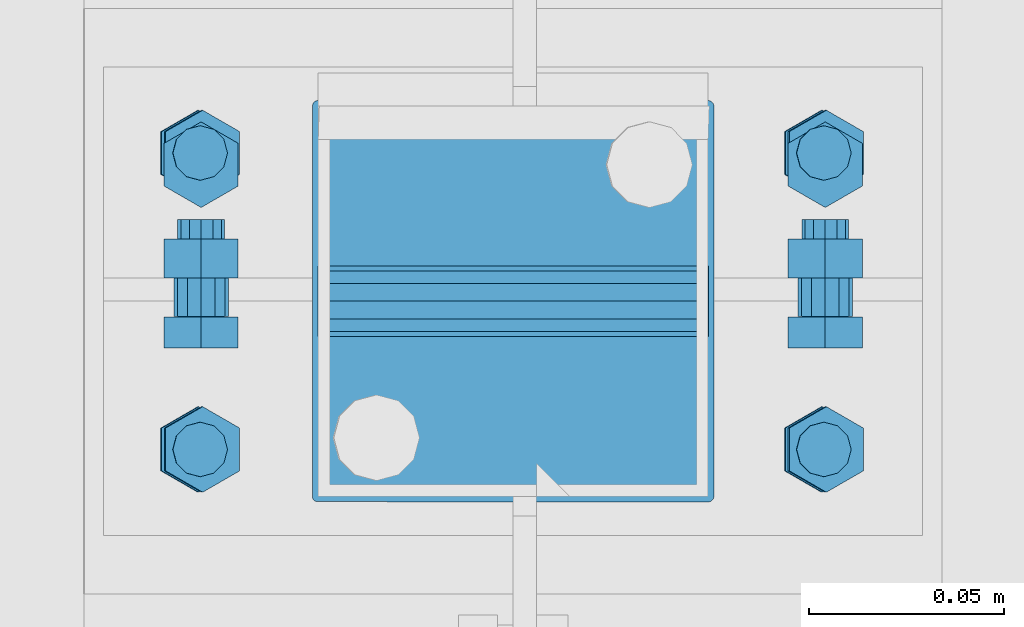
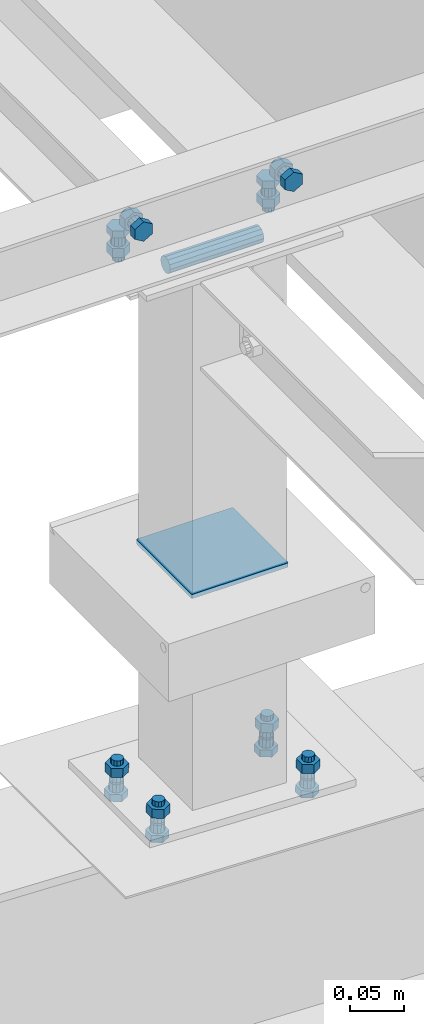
# One storey, part 192 of 3134: 6 mechanical fasteners, 3 elements without a shape of their own.
"""IFC2X3 building model written with IfcOpenShell, lengths in millimetres."""

from ifc_helpers import new_model, si_unit, frame, origin_with_axes, place, context, subcontext, project, spatial, faceted_brep, source, transform, mapped, material, type_object, element, aggregate, save


model = new_model("IFC2X3")

# Units and contexts
model_context = context("Model", 3, precision=1e-05, world=origin_with_axes())
body_context = subcontext(model_context, "Body", "Model", "MODEL_VIEW")
ifc_project = project(units=[si_unit("LENGTHUNIT", "METRE", prefix="MILLI"), si_unit("AREAUNIT", "SQUARE_METRE"), si_unit("VOLUMEUNIT", "CUBIC_METRE"), si_unit("MASSUNIT", "GRAM", prefix="KILO"), si_unit("TIMEUNIT", "SECOND"), si_unit("PLANEANGLEUNIT", "RADIAN"), si_unit("SOLIDANGLEUNIT", "STERADIAN"), si_unit("THERMODYNAMICTEMPERATUREUNIT", "DEGREE_CELSIUS"), si_unit("LUMINOUSINTENSITYUNIT", "LUMEN")], contexts=[model_context])

# Site, building, storey
site_placement = place(None, origin_with_axes())
site = spatial("IfcSite", under=ifc_project, at=site_placement, CompositionType="ELEMENT")
building_placement = place(site_placement, origin_with_axes())
building = spatial("IfcBuilding", under=site, at=building_placement, Name="Undefined", CompositionType="ELEMENT")
storey_placement = place(building_placement, origin_with_axes())
storey = spatial("IfcBuildingStorey", under=building, at=storey_placement, Name="Undefined", CompositionType="ELEMENT", Elevation=0.0)

# Assembly, mechanical fastener
assembly_1_placement = place(storey_placement, origin_with_axes())
assembly_1 = element("IfcElementAssembly", 1, at=assembly_1_placement, inside=storey, AssemblyPlace="NOTDEFINED", PredefinedType="RIGID_FRAME")
ifc_material_1 = material(Name="8.8")
mechanical_fastener_type = type_object("IfcMechanicalFastenerType", Name="Bolt assembly")
shared_shape_1 = source(origin_with_axes(), body_context, "Body", "Brep", [
    faceted_brep([(10.9696551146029, -14.0, 0.0), (5.48482755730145, -14.0, 9.5), (-5.48482755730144, -14.0, 9.5), (-10.9696551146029, -14.0, 1.34339530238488e-15), (-5.48482755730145, -14.0, -9.5), (5.48482755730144, -14.0, -9.50000000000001), (5.48482755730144, -6.0, -9.50000000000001), (-5.48482755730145, -6.0, -9.5), (-10.9696551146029, -6.0, 1.34339530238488e-15), (-5.48482755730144, -6.0, 9.5), (5.48482755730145, -6.0, 9.5), (10.9696551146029, -6.0, 0.0), (6.0, -6.0, 0.0), (5.19615242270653, -6.0, 3.00000000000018), (2.99999999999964, -6.0, 5.19615242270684), (-6.21801588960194e-13, -6.0, 6.0), (-3.00000000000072, -6.0, 5.19615242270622), (-5.19615242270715, -6.0, 2.9999999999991), (-6.0, -6.0, -1.24360317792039e-12), (-5.19615242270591, -6.0, -3.00000000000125), (-2.99999999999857, -6.0, -5.19615242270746), (1.85874342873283e-12, -6.0, -6.0), (3.00000000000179, -6.0, -5.1961524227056), (5.19615242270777, -6.0, -2.99999999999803), (5.19615242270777, 24.0, -2.99999999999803), (3.00000000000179, 24.0, -5.1961524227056), (1.85874342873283e-12, 24.0, -6.0), (-2.99999999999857, 24.0, -5.19615242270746), (-5.19615242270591, 24.0, -3.00000000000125), (-6.0, 24.0, -1.24360317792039e-12), (-5.19615242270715, 24.0, 2.9999999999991), (-3.00000000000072, 24.0, 5.19615242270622), (-6.21801588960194e-13, 24.0, 6.0), (2.99999999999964, 24.0, 5.19615242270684), (5.19615242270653, 24.0, 3.00000000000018), (6.0, 24.0, 0.0), (10.9696551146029, 6.00000000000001, 0.0), (5.48482755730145, 6.00000000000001, 9.5), (-5.48482755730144, 6.00000000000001, 9.5), (-10.9696551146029, 6.00000000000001, 1.34339530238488e-15), (-5.48482755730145, 6.00000000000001, -9.5), (5.48482755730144, 6.00000000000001, -9.50000000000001), (5.48482755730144, 16.0, -9.50000000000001), (-5.48482755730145, 16.0, -9.5), (-10.9696551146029, 16.0, 1.34339530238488e-15), (-5.48482755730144, 16.0, 9.5), (5.48482755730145, 16.0, 9.5), (10.9696551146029, 16.0, 0.0)], [[[0, 1, 2, 3, 4, 5]], [[6, 7, 8, 9, 10, 11]], [[0, 11, 10, 1]], [[1, 10, 9, 2]], [[2, 9, 8, 3]], [[3, 8, 7, 4]], [[4, 7, 6, 5]], [[5, 6, 11, 0]], [[12, 13, 14, 15, 16, 17, 18, 19, 20, 21, 22, 23]], [[24, 25, 26, 27, 28, 29, 30, 31, 32, 33, 34, 35]], [[12, 35, 34, 13]], [[13, 34, 33, 14]], [[14, 33, 32, 15]], [[15, 32, 31, 16]], [[16, 31, 30, 17]], [[17, 30, 29, 18]], [[18, 29, 28, 19]], [[19, 28, 27, 20]], [[20, 27, 26, 21]], [[21, 26, 25, 22]], [[22, 25, 24, 23]], [[23, 24, 35, 12]], [[36, 37, 38, 39, 40, 41]], [[42, 43, 44, 45, 46, 47]], [[36, 47, 46, 37]], [[37, 46, 45, 38]], [[38, 45, 44, 39]], [[39, 44, 43, 40]], [[40, 43, 42, 41]], [[41, 42, 47, 36]]]),
    faceted_brep([(7.0, -0.1, 0.0), (6.06217782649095, -0.1, 3.50000000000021), (3.49999999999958, -0.1, 6.06217782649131), (-7.25435187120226e-13, -0.1, 7.0), (-3.50000000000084, -0.1, 6.06217782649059), (-6.06217782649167, -0.1, 3.49999999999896), (-7.0, -0.1, -1.45087037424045e-12), (-6.06217782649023, -0.1, -3.50000000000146), (-3.49999999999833, -0.1, -6.06217782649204), (2.1685340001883e-12, -0.1, -7.0), (3.50000000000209, -0.1, -6.06217782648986), (6.0621778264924, -0.1, -3.4999999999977), (6.0621778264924, 6.00000000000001, -3.4999999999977), (3.50000000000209, 6.00000000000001, -6.06217782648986), (2.1685340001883e-12, 6.00000000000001, -7.0), (-3.49999999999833, 6.00000000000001, -6.06217782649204), (-6.06217782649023, 6.00000000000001, -3.50000000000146), (-7.0, 6.00000000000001, -1.45087037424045e-12), (-6.06217782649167, 6.00000000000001, 3.49999999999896), (-3.50000000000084, 6.00000000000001, 6.06217782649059), (-7.25435187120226e-13, 6.00000000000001, 7.0), (3.49999999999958, 6.00000000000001, 6.06217782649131), (6.06217782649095, 6.00000000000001, 3.50000000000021), (7.0, 6.00000000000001, 0.0), (7.0, -5.9, 0.0), (6.06217782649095, -5.9, 3.50000000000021), (3.49999999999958, -5.9, 6.06217782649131), (-7.25435187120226e-13, -5.9, 7.0), (-3.50000000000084, -5.9, 6.06217782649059), (-6.06217782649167, -5.9, 3.49999999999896), (-7.0, -5.9, -1.45087037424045e-12), (-6.06217782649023, -5.9, -3.50000000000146), (-3.49999999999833, -5.9, -6.06217782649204), (2.1685340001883e-12, -5.9, -7.0), (3.50000000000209, -5.9, -6.06217782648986), (6.0621778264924, -5.9, -3.4999999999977), (6.0621778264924, 0.0999999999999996, -3.4999999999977), (3.50000000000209, 0.0999999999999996, -6.06217782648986), (2.1685340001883e-12, 0.0999999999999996, -7.0), (-3.49999999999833, 0.0999999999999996, -6.06217782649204), (-6.06217782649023, 0.0999999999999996, -3.50000000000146), (-7.0, 0.0999999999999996, -1.45087037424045e-12), (-6.06217782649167, 0.0999999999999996, 3.49999999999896), (-3.50000000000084, 0.0999999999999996, 6.06217782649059), (-7.25435187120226e-13, 0.0999999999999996, 7.0), (3.49999999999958, 0.0999999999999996, 6.06217782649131), (6.06217782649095, 0.0999999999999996, 3.50000000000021), (7.0, 0.0999999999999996, 0.0)], [[[0, 1, 2, 3, 4, 5, 6, 7, 8, 9, 10, 11]], [[12, 13, 14, 15, 16, 17, 18, 19, 20, 21, 22, 23]], [[0, 23, 22, 1]], [[1, 22, 21, 2]], [[2, 21, 20, 3]], [[3, 20, 19, 4]], [[4, 19, 18, 5]], [[5, 18, 17, 6]], [[6, 17, 16, 7]], [[7, 16, 15, 8]], [[8, 15, 14, 9]], [[9, 14, 13, 10]], [[10, 13, 12, 11]], [[11, 12, 23, 0]], [[24, 25, 26, 27, 28, 29, 30, 31, 32, 33, 34, 35]], [[36, 37, 38, 39, 40, 41, 42, 43, 44, 45, 46, 47]], [[24, 47, 46, 25]], [[25, 46, 45, 26]], [[26, 45, 44, 27]], [[27, 44, 43, 28]], [[28, 43, 42, 29]], [[29, 42, 41, 30]], [[30, 41, 40, 31]], [[31, 40, 39, 32]], [[32, 39, 38, 33]], [[33, 38, 37, 34]], [[34, 37, 36, 35]], [[35, 36, 47, 24]]]),
])
mechanical_fastener_1_placement = place(assembly_1_placement, frame((8340.0, 43043.33, 4365.0), z_axis=(1.0, 0.0, 0.0), x_axis=(0.0, -1.0, 0.0)))
mechanical_fastener_1 = element("IfcMechanicalFastener", 2, at=mechanical_fastener_1_placement, type_object=mechanical_fastener_type, material=ifc_material_1, Name="Bolt assembly", NominalDiameter=12.0, NominalLength=30.0, context=body_context, shape_type="MappedRepresentation", body=[
    mapped(shared_shape_1, transform((0.0, -5.32963895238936e-10, -79.9999999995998))),
    mapped(shared_shape_1, transform((0.0, 5.3114490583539e-10, 79.9999999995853))),
])

assembly_2_placement = place(storey_placement, origin_with_axes())
assembly_2 = element("IfcElementAssembly", 3, at=assembly_2_placement, inside=storey, AssemblyPlace="NOTDEFINED", PredefinedType="RIGID_FRAME")
shared_shape_2 = source(origin_with_axes(), body_context, "Body", "Brep", [
    faceted_brep([(10.9696551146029, -4.18346828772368, 0.0), (5.48482755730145, -4.18346828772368, 9.5), (-5.48482755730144, -4.18346828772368, 9.5), (-10.9696551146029, -4.18346828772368, 1.34339530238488e-15), (-5.48482755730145, -4.18346828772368, -9.5), (5.48482755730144, -4.18346828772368, -9.50000000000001), (5.48482755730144, 3.81653171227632, -9.50000000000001), (-5.48482755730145, 3.81653171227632, -9.5), (-10.9696551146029, 3.81653171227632, 1.34339530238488e-15), (-5.48482755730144, 3.81653171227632, 9.5), (5.48482755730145, 3.81653171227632, 9.5), (10.9696551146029, 3.81653171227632, 0.0), (6.0, 3.81653171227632, 0.0), (5.19615242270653, 3.81653171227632, 3.00000000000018), (2.99999999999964, 3.81653171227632, 5.19615242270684), (-6.21801588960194e-13, 3.81653171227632, 6.0), (-3.00000000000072, 3.81653171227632, 5.19615242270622), (-5.19615242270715, 3.81653171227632, 2.9999999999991), (-6.0, 3.81653171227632, -1.24360317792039e-12), (-5.19615242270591, 3.81653171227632, -3.00000000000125), (-2.99999999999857, 3.81653171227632, -5.19615242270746), (1.85874342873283e-12, 3.81653171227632, -6.0), (3.00000000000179, 3.81653171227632, -5.1961524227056), (5.19615242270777, 3.81653171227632, -2.99999999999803), (5.19615242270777, 38.8165317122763, -2.99999999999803), (3.00000000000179, 38.8165317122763, -5.1961524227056), (1.85874342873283e-12, 38.8165317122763, -6.0), (-2.99999999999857, 38.8165317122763, -5.19615242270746), (-5.19615242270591, 38.8165317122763, -3.00000000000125), (-6.0, 38.8165317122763, -1.24360317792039e-12), (-5.19615242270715, 38.8165317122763, 2.9999999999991), (-3.00000000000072, 38.8165317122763, 5.19615242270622), (-6.21801588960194e-13, 38.8165317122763, 6.0), (2.99999999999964, 38.8165317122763, 5.19615242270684), (5.19615242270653, 38.8165317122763, 3.00000000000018), (6.0, 38.8165317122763, 0.0), (10.9696551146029, 23.0139082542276, 0.0), (5.48482755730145, 23.0139082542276, 9.5), (-5.48482755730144, 23.0139082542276, 9.5), (-10.9696551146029, 23.0139082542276, 1.34339530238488e-15), (-5.48482755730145, 23.0139082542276, -9.5), (5.48482755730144, 23.0139082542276, -9.50000000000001), (5.48482755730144, 33.0139082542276, -9.50000000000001), (-5.48482755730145, 33.0139082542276, -9.5), (-10.9696551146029, 33.0139082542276, 1.34339530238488e-15), (-5.48482755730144, 33.0139082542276, 9.5), (5.48482755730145, 33.0139082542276, 9.5), (10.9696551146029, 33.0139082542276, 0.0)], [[[0, 1, 2, 3, 4, 5]], [[6, 7, 8, 9, 10, 11]], [[0, 11, 10, 1]], [[1, 10, 9, 2]], [[2, 9, 8, 3]], [[3, 8, 7, 4]], [[4, 7, 6, 5]], [[5, 6, 11, 0]], [[12, 13, 14, 15, 16, 17, 18, 19, 20, 21, 22, 23]], [[24, 25, 26, 27, 28, 29, 30, 31, 32, 33, 34, 35]], [[12, 35, 34, 13]], [[13, 34, 33, 14]], [[14, 33, 32, 15]], [[15, 32, 31, 16]], [[16, 31, 30, 17]], [[17, 30, 29, 18]], [[18, 29, 28, 19]], [[19, 28, 27, 20]], [[20, 27, 26, 21]], [[21, 26, 25, 22]], [[22, 25, 24, 23]], [[23, 24, 35, 12]], [[36, 37, 38, 39, 40, 41]], [[42, 43, 44, 45, 46, 47]], [[36, 47, 46, 37]], [[37, 46, 45, 38]], [[38, 45, 44, 39]], [[39, 44, 43, 40]], [[40, 43, 42, 41]], [[41, 42, 47, 36]]]),
    faceted_brep([(7.0, 3.91653171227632, 0.0), (6.06217782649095, 3.91653171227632, 3.50000000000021), (3.49999999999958, 3.91653171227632, 6.06217782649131), (-7.25435187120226e-13, 3.91653171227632, 7.0), (-3.50000000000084, 3.91653171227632, 6.06217782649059), (-6.06217782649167, 3.91653171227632, 3.49999999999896), (-7.0, 3.91653171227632, -1.45087037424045e-12), (-6.06217782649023, 3.91653171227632, -3.50000000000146), (-3.49999999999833, 3.91653171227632, -6.06217782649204), (2.1685340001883e-12, 3.91653171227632, -7.0), (3.50000000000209, 3.91653171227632, -6.06217782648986), (6.0621778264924, 3.91653171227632, -3.4999999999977), (6.0621778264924, 13.1165315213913, -3.4999999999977), (3.50000000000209, 13.1165315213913, -6.06217782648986), (2.1685340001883e-12, 13.1165315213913, -7.0), (-3.49999999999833, 13.1165315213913, -6.06217782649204), (-6.06217782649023, 13.1165315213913, -3.50000000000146), (-7.0, 13.1165315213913, -1.45087037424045e-12), (-6.06217782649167, 13.1165315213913, 3.49999999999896), (-3.50000000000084, 13.1165315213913, 6.06217782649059), (-7.25435187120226e-13, 13.1165315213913, 7.0), (3.49999999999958, 13.1165315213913, 6.06217782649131), (6.06217782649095, 13.1165315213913, 3.50000000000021), (7.0, 13.1165315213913, 0.0), (7.0, 14.9139082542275, 0.0), (6.06217782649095, 14.9139082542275, 3.50000000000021), (3.49999999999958, 14.9139082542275, 6.06217782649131), (-7.25435187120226e-13, 14.9139082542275, 7.0), (-3.50000000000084, 14.9139082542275, 6.06217782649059), (-6.06217782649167, 14.9139082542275, 3.49999999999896), (-7.0, 14.9139082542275, -1.45087037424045e-12), (-6.06217782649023, 14.9139082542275, -3.50000000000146), (-3.49999999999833, 14.9139082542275, -6.06217782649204), (2.1685340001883e-12, 14.9139082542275, -7.0), (3.50000000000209, 14.9139082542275, -6.06217782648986), (6.0621778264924, 14.9139082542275, -3.4999999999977), (6.0621778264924, 23.0139082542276, -3.4999999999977), (3.50000000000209, 23.0139082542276, -6.06217782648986), (2.1685340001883e-12, 23.0139082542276, -7.0), (-3.49999999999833, 23.0139082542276, -6.06217782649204), (-6.06217782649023, 23.0139082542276, -3.50000000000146), (-7.0, 23.0139082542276, -1.45087037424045e-12), (-6.06217782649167, 23.0139082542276, 3.49999999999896), (-3.50000000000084, 23.0139082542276, 6.06217782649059), (-7.25435187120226e-13, 23.0139082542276, 7.0), (3.49999999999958, 23.0139082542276, 6.06217782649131), (6.06217782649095, 23.0139082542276, 3.50000000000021), (7.0, 23.0139082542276, 0.0)], [[[0, 1, 2, 3, 4, 5, 6, 7, 8, 9, 10, 11]], [[12, 13, 14, 15, 16, 17, 18, 19, 20, 21, 22, 23]], [[0, 23, 22, 1]], [[1, 22, 21, 2]], [[2, 21, 20, 3]], [[3, 20, 19, 4]], [[4, 19, 18, 5]], [[5, 18, 17, 6]], [[6, 17, 16, 7]], [[7, 16, 15, 8]], [[8, 15, 14, 9]], [[9, 14, 13, 10]], [[10, 13, 12, 11]], [[11, 12, 23, 0]], [[24, 25, 26, 27, 28, 29, 30, 31, 32, 33, 34, 35]], [[36, 37, 38, 39, 40, 41, 42, 43, 44, 45, 46, 47]], [[24, 47, 46, 25]], [[25, 46, 45, 26]], [[26, 45, 44, 27]], [[27, 44, 43, 28]], [[28, 43, 42, 29]], [[29, 42, 41, 30]], [[30, 41, 40, 31]], [[31, 40, 39, 32]], [[32, 39, 38, 33]], [[33, 38, 37, 34]], [[34, 37, 36, 35]], [[35, 36, 47, 24]]]),
])
mechanical_fastener_2_placement = place(assembly_2_placement, frame((8339.1931765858, 43046.3299999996, 3735.10000668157), z_axis=(-0.999387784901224, 0.0, 0.0349865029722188), x_axis=(0.0, -1.0, 0.0)))
mechanical_fastener_2 = element("IfcMechanicalFastener", 4, at=mechanical_fastener_2_placement, type_object=mechanical_fastener_type, material=ifc_material_1, Name="Bolt assembly", NominalDiameter=12.0, NominalLength=35.0, context=body_context, shape_type="MappedRepresentation", body=[
    mapped(shared_shape_2, transform((0.0, -5.32963895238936e-10, -79.9999999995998))),
    mapped(shared_shape_2, transform((76.0, -5.32963895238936e-10, -79.9999999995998))),
    mapped(shared_shape_2, transform((0.0, 5.3114490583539e-10, 79.9999999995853))),
    mapped(shared_shape_2, transform((76.0, 5.3114490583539e-10, 79.9999999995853))),
])

assembly_3_placement = place(storey_placement, origin_with_axes())
assembly_3 = element("IfcElementAssembly", 5, at=assembly_3_placement, inside=storey, AssemblyPlace="NOTDEFINED", PredefinedType="RIGID_FRAME")
shared_shape_3 = source(origin_with_axes(), body_context, "Body", "Brep", [
    faceted_brep([(7.0, 13.0000253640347, 0.0), (6.06217782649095, 13.0000253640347, 3.50000000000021), (3.49999999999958, 13.0000253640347, 6.06217782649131), (-7.25435187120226e-13, 13.0000253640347, 7.0), (-3.50000000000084, 13.0000253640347, 6.06217782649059), (-6.06217782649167, 13.0000253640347, 3.49999999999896), (-7.0, 13.0000253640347, -1.45087037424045e-12), (-6.06217782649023, 13.0000253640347, -3.50000000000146), (-3.49999999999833, 13.0000253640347, -6.06217782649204), (2.1685340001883e-12, 13.0000253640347, -7.0), (3.50000000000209, 13.0000253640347, -6.06217782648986), (6.0621778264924, 13.0000253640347, -3.4999999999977), (6.0621778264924, 15.0999999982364, -3.4999999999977), (3.50000000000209, 15.0999999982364, -6.06217782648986), (2.1685340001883e-12, 15.0999999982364, -7.0), (-3.49999999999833, 15.0999999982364, -6.06217782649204), (-6.06217782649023, 15.0999999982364, -3.50000000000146), (-7.0, 15.0999999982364, -1.45087037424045e-12), (-6.06217782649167, 15.0999999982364, 3.49999999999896), (-3.50000000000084, 15.0999999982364, 6.06217782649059), (-7.25435187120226e-13, 15.0999999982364, 7.0), (3.49999999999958, 15.0999999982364, 6.06217782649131), (6.06217782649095, 15.0999999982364, 3.50000000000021), (7.0, 15.0999999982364, 0.0)], [[[0, 1, 2, 3, 4, 5, 6, 7, 8, 9, 10, 11]], [[12, 13, 14, 15, 16, 17, 18, 19, 20, 21, 22, 23]], [[0, 23, 22, 1]], [[1, 22, 21, 2]], [[2, 21, 20, 3]], [[3, 20, 19, 4]], [[4, 19, 18, 5]], [[5, 18, 17, 6]], [[6, 17, 16, 7]], [[7, 16, 15, 8]], [[8, 15, 14, 9]], [[9, 14, 13, 10]], [[10, 13, 12, 11]], [[11, 12, 23, 0]]]),
])
mechanical_fastener_3_placement = place(assembly_3_placement, frame((8339.1931765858, 43046.3299999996, 3735.10000668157), z_axis=(-0.999387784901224, 0.0, 0.0349865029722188), x_axis=(0.0, -1.0, 0.0)))
mechanical_fastener_3 = element("IfcMechanicalFastener", 6, at=mechanical_fastener_3_placement, type_object=mechanical_fastener_type, material=ifc_material_1, Name="Bolt assembly", NominalDiameter=12.0, NominalLength=2.0, context=body_context, shape_type="MappedRepresentation", body=[
    mapped(shared_shape_3, transform((0.0, -5.32963895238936e-10, -79.9999999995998))),
    mapped(shared_shape_3, transform((76.0, -5.32963895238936e-10, -79.9999999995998))),
    mapped(shared_shape_3, transform((0.0, 5.3114490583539e-10, 79.9999999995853))),
    mapped(shared_shape_3, transform((76.0, 5.3114490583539e-10, 79.9999999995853))),
])
aggregate(assembly_3, [mechanical_fastener_3])

# Mechanical fastener
shared_shape_4 = source(origin_with_axes(), body_context, "Body", "Brep", [
    faceted_brep([(9.0, -50.0, 0.0), (7.79422863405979, -50.0, 4.50000000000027), (4.49999999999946, -50.0, 7.79422863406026), (-9.3270238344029e-13, -50.0, 9.0), (-4.50000000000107, -50.0, 7.79422863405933), (-7.79422863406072, -50.0, 4.49999999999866), (-9.0, -50.0, -1.86540476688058e-12), (-7.79422863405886, -50.0, -4.50000000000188), (-4.49999999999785, -50.0, -7.79422863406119), (2.78811514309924e-12, -50.0, -9.0), (4.50000000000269, -50.0, -7.7942286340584), (7.79422863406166, -50.0, -4.49999999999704), (7.79422863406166, 50.1, -4.49999999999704), (4.50000000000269, 50.1, -7.7942286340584), (2.78811514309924e-12, 50.1, -9.0), (-4.49999999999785, 50.1, -7.79422863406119), (-7.79422863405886, 50.1, -4.50000000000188), (-9.0, 50.1, -1.86540476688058e-12), (-7.79422863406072, 50.1, 4.49999999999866), (-4.50000000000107, 50.1, 7.79422863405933), (-9.3270238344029e-13, 50.1, 9.0), (4.49999999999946, 50.1, 7.79422863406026), (7.79422863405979, 50.1, 4.50000000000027), (9.0, 50.1, 0.0)], [[[0, 1, 2, 3, 4, 5, 6, 7, 8, 9, 10, 11]], [[12, 13, 14, 15, 16, 17, 18, 19, 20, 21, 22, 23]], [[0, 23, 22, 1]], [[1, 22, 21, 2]], [[2, 21, 20, 3]], [[3, 20, 19, 4]], [[4, 19, 18, 5]], [[5, 18, 17, 6]], [[6, 17, 16, 7]], [[7, 16, 15, 8]], [[8, 15, 14, 9]], [[9, 14, 13, 10]], [[10, 13, 12, 11]], [[11, 12, 23, 0]]]),
])
mechanical_fastener_4_placement = place(assembly_2_placement, frame((8340.0, 43008.33, 4345.0), z_axis=(0.0, 1.0, 0.0), x_axis=(0.0, 0.0, 1.0)))
mechanical_fastener_4 = element("IfcMechanicalFastener", 7, at=mechanical_fastener_4_placement, type_object=mechanical_fastener_type, material=ifc_material_1, Name="Bolt assembly", NominalDiameter=16.0, NominalLength=100.0, context=body_context, shape_type="MappedRepresentation", body=[
    mapped(shared_shape_4, transform((0.0, 0.0, 0.0))),
])

ifc_material_2 = material(Name="6.8")
shared_shape_5 = source(origin_with_axes(), body_context, "Body", "Brep", [
    faceted_brep([(51.5, 1.36424205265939e-12, 50.0), (51.3858192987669, 1.36424205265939e-12, 50.5740251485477), (51.0606601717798, 1.36424205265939e-12, 51.0606601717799), (50.5740251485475, 1.36424205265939e-12, 51.385819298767), (-50.0000000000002, 1.36424205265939e-12, 51.5), (-50.7500000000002, 1.36424205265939e-12, 51.2990381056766), (-51.2990381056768, 1.36424205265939e-12, 50.7499999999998), (-51.5, 1.36424205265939e-12, 49.9999999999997), (-51.5, 1.36424205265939e-12, -50.0000000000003), (-51.2990381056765, 1.36424205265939e-12, -50.7500000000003), (-50.7499999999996, 1.36424205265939e-12, -51.2990381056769), (-49.9999999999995, 1.36424205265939e-12, -51.5), (50.0000000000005, 1.36424205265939e-12, -51.5), (50.7500000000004, 1.36424205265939e-12, -51.2990381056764), (51.2990381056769, 1.36424205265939e-12, -50.7499999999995), (51.5, 1.36424205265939e-12, -49.9999999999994), (51.5, 5.10000000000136, -49.9999999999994), (51.2990381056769, 5.10000000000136, -50.7499999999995), (50.7500000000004, 5.10000000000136, -51.2990381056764), (50.0000000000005, 5.10000000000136, -51.5), (-49.9999999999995, 5.10000000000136, -51.5), (-50.7499999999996, 5.10000000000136, -51.2990381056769), (-51.2990381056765, 5.10000000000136, -50.7500000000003), (-51.5, 5.10000000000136, -50.0000000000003), (-51.5, 5.10000000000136, 49.9999999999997), (-51.2990381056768, 5.10000000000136, 50.7499999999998), (-50.7500000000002, 5.10000000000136, 51.2990381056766), (-50.0000000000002, 5.10000000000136, 51.5), (50.5740251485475, 5.10000000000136, 51.385819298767), (51.0606601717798, 5.10000000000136, 51.0606601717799), (51.3858192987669, 5.10000000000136, 50.5740251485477), (51.5, 5.10000000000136, 50.0)], [[[0, 1, 2, 3, 4, 5, 6, 7, 8, 9, 10, 11, 12, 13, 14, 15]], [[16, 17, 18, 19, 20, 21, 22, 23, 24, 25, 26, 27, 28, 29, 30, 31]], [[0, 31, 30, 1]], [[1, 30, 29, 2]], [[2, 29, 28, 3]], [[3, 28, 27, 4]], [[4, 27, 26, 5]], [[5, 26, 25, 6]], [[6, 25, 24, 7]], [[7, 24, 23, 8]], [[8, 23, 22, 9]], [[9, 22, 21, 10]], [[10, 21, 20, 11]], [[11, 20, 19, 12]], [[12, 19, 18, 13]], [[13, 18, 17, 14]], [[14, 17, 16, 15]], [[15, 16, 31, 0]]]),
])
mechanical_fastener_5_placement = place(assembly_2_placement, frame((8340.0, 43008.33, 4004.89), z_axis=(0.0, -1.0, 0.0), x_axis=(-1.0, 0.0, 0.0)))
mechanical_fastener_5 = element("IfcMechanicalFastener", 8, at=mechanical_fastener_5_placement, type_object=mechanical_fastener_type, material=ifc_material_2, Name="Bolt assembly", NominalDiameter=10.0, NominalLength=5.0, context=body_context, shape_type="MappedRepresentation", body=[
    mapped(shared_shape_5, transform((0.0, 0.0, 0.0))),
])

aggregate(assembly_2, [mechanical_fastener_2, mechanical_fastener_5, mechanical_fastener_4])

shared_shape_6 = source(origin_with_axes(), body_context, "Body", "Brep", [
    faceted_brep([(10.9696551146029, -12.0, 0.0), (5.48482755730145, -12.0, 9.5), (-5.48482755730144, -12.0, 9.5), (-10.9696551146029, -12.0, 1.34339530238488e-15), (-5.48482755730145, -12.0, -9.5), (5.48482755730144, -12.0, -9.50000000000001), (5.48482755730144, -4.0, -9.50000000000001), (-5.48482755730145, -4.0, -9.5), (-10.9696551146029, -4.0, 1.34339530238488e-15), (-5.48482755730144, -4.0, 9.5), (5.48482755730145, -4.0, 9.5), (10.9696551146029, -4.0, 0.0), (6.0, -4.0, 0.0), (5.19615242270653, -4.0, 3.00000000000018), (2.99999999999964, -4.0, 5.19615242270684), (-6.21801588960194e-13, -4.0, 6.0), (-3.00000000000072, -4.0, 5.19615242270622), (-5.19615242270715, -4.0, 2.9999999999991), (-6.0, -4.0, -1.24360317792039e-12), (-5.19615242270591, -4.0, -3.00000000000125), (-2.99999999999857, -4.0, -5.19615242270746), (1.85874342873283e-12, -4.0, -6.0), (3.00000000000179, -4.0, -5.1961524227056), (5.19615242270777, -4.0, -2.99999999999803), (5.19615242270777, 21.0, -2.99999999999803), (3.00000000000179, 21.0, -5.1961524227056), (1.85874342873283e-12, 21.0, -6.0), (-2.99999999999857, 21.0, -5.19615242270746), (-5.19615242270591, 21.0, -3.00000000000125), (-6.0, 21.0, -1.24360317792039e-12), (-5.19615242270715, 21.0, 2.9999999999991), (-3.00000000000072, 21.0, 5.19615242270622), (-6.21801588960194e-13, 21.0, 6.0), (2.99999999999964, 21.0, 5.19615242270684), (5.19615242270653, 21.0, 3.00000000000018), (6.0, 21.0, 0.0), (10.9696551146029, 6.00000000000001, 0.0), (5.48482755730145, 6.00000000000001, 9.5), (-5.48482755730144, 6.00000000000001, 9.5), (-10.9696551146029, 6.00000000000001, 1.34339530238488e-15), (-5.48482755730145, 6.00000000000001, -9.5), (5.48482755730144, 6.00000000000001, -9.50000000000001), (5.48482755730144, 16.0, -9.50000000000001), (-5.48482755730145, 16.0, -9.5), (-10.9696551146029, 16.0, 1.34339530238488e-15), (-5.48482755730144, 16.0, 9.5), (5.48482755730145, 16.0, 9.5), (10.9696551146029, 16.0, 0.0)], [[[0, 1, 2, 3, 4, 5]], [[6, 7, 8, 9, 10, 11]], [[0, 11, 10, 1]], [[1, 10, 9, 2]], [[2, 9, 8, 3]], [[3, 8, 7, 4]], [[4, 7, 6, 5]], [[5, 6, 11, 0]], [[12, 13, 14, 15, 16, 17, 18, 19, 20, 21, 22, 23]], [[24, 25, 26, 27, 28, 29, 30, 31, 32, 33, 34, 35]], [[12, 35, 34, 13]], [[13, 34, 33, 14]], [[14, 33, 32, 15]], [[15, 32, 31, 16]], [[16, 31, 30, 17]], [[17, 30, 29, 18]], [[18, 29, 28, 19]], [[19, 28, 27, 20]], [[20, 27, 26, 21]], [[21, 26, 25, 22]], [[22, 25, 24, 23]], [[23, 24, 35, 12]], [[36, 37, 38, 39, 40, 41]], [[42, 43, 44, 45, 46, 47]], [[36, 47, 46, 37]], [[37, 46, 45, 38]], [[38, 45, 44, 39]], [[39, 44, 43, 40]], [[40, 43, 42, 41]], [[41, 42, 47, 36]]]),
    faceted_brep([(7.0, -3.9, 0.0), (6.06217782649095, -3.9, 3.50000000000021), (3.49999999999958, -3.9, 6.06217782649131), (-7.25435187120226e-13, -3.9, 7.0), (-3.50000000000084, -3.9, 6.06217782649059), (-6.06217782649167, -3.9, 3.49999999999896), (-7.0, -3.9, -1.45087037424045e-12), (-6.06217782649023, -3.9, -3.50000000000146), (-3.49999999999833, -3.9, -6.06217782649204), (2.1685340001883e-12, -3.9, -7.0), (3.50000000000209, -3.9, -6.06217782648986), (6.0621778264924, -3.9, -3.4999999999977), (6.0621778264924, 0.0999999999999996, -3.4999999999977), (3.50000000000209, 0.0999999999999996, -6.06217782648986), (2.1685340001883e-12, 0.0999999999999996, -7.0), (-3.49999999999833, 0.0999999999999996, -6.06217782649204), (-6.06217782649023, 0.0999999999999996, -3.50000000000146), (-7.0, 0.0999999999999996, -1.45087037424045e-12), (-6.06217782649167, 0.0999999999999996, 3.49999999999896), (-3.50000000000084, 0.0999999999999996, 6.06217782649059), (-7.25435187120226e-13, 0.0999999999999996, 7.0), (3.49999999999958, 0.0999999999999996, 6.06217782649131), (6.06217782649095, 0.0999999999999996, 3.50000000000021), (7.0, 0.0999999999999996, 0.0), (7.0, -0.1, 0.0), (6.06217782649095, -0.1, 3.50000000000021), (3.49999999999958, -0.1, 6.06217782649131), (-7.25435187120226e-13, -0.1, 7.0), (-3.50000000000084, -0.1, 6.06217782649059), (-6.06217782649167, -0.1, 3.49999999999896), (-7.0, -0.1, -1.45087037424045e-12), (-6.06217782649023, -0.1, -3.50000000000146), (-3.49999999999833, -0.1, -6.06217782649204), (2.1685340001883e-12, -0.1, -7.0), (3.50000000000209, -0.1, -6.06217782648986), (6.0621778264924, -0.1, -3.4999999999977), (6.0621778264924, 6.00000000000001, -3.4999999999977), (3.50000000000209, 6.00000000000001, -6.06217782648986), (2.1685340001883e-12, 6.00000000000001, -7.0), (-3.49999999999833, 6.00000000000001, -6.06217782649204), (-6.06217782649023, 6.00000000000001, -3.50000000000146), (-7.0, 6.00000000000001, -1.45087037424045e-12), (-6.06217782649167, 6.00000000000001, 3.49999999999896), (-3.50000000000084, 6.00000000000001, 6.06217782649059), (-7.25435187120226e-13, 6.00000000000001, 7.0), (3.49999999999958, 6.00000000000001, 6.06217782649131), (6.06217782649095, 6.00000000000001, 3.50000000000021), (7.0, 6.00000000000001, 0.0)], [[[0, 1, 2, 3, 4, 5, 6, 7, 8, 9, 10, 11]], [[12, 13, 14, 15, 16, 17, 18, 19, 20, 21, 22, 23]], [[0, 23, 22, 1]], [[1, 22, 21, 2]], [[2, 21, 20, 3]], [[3, 20, 19, 4]], [[4, 19, 18, 5]], [[5, 18, 17, 6]], [[6, 17, 16, 7]], [[7, 16, 15, 8]], [[8, 15, 14, 9]], [[9, 14, 13, 10]], [[10, 13, 12, 11]], [[11, 12, 23, 0]], [[24, 25, 26, 27, 28, 29, 30, 31, 32, 33, 34, 35]], [[36, 37, 38, 39, 40, 41, 42, 43, 44, 45, 46, 47]], [[24, 47, 46, 25]], [[25, 46, 45, 26]], [[26, 45, 44, 27]], [[27, 44, 43, 28]], [[28, 43, 42, 29]], [[29, 42, 41, 30]], [[30, 41, 40, 31]], [[31, 40, 39, 32]], [[32, 39, 38, 33]], [[33, 38, 37, 34]], [[34, 37, 36, 35]], [[35, 36, 47, 24]]]),
])
mechanical_fastener_6_placement = place(assembly_1_placement, frame((8340.0, 43008.33, 4400.0), z_axis=(1.0, 0.0, 0.0), x_axis=(0.0, 0.0, -1.0)))
mechanical_fastener_6 = element("IfcMechanicalFastener", 9, at=mechanical_fastener_6_placement, type_object=mechanical_fastener_type, material=ifc_material_1, Name="Bolt assembly", NominalDiameter=12.0, NominalLength=25.0, context=body_context, shape_type="MappedRepresentation", body=[
    mapped(shared_shape_6, transform((0.0, -5.32963895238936e-10, -79.9999999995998))),
    mapped(shared_shape_6, transform((0.0, 5.3114490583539e-10, 79.9999999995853))),
])

aggregate(assembly_1, [mechanical_fastener_6, mechanical_fastener_1])

save(model, "model.ifc")
